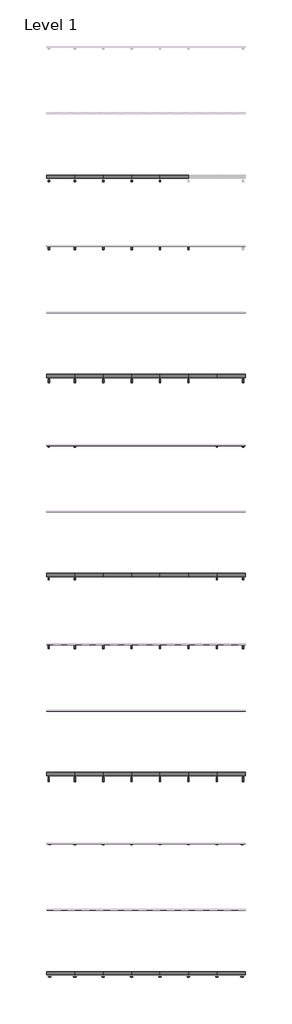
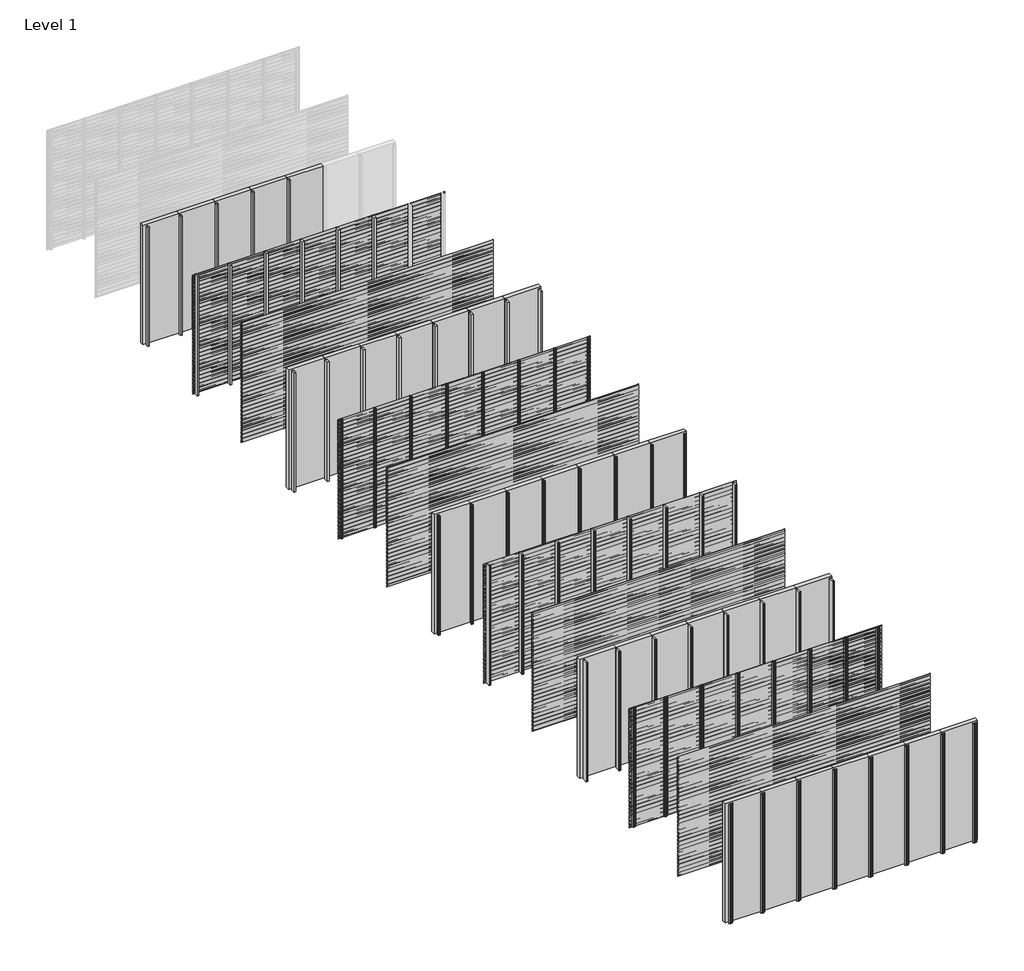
# One storey, part 1 of 96: 67 members, 65 plates.
"""IFC4 building model written with IfcOpenShell, lengths in millimetres."""

from ifc_helpers import new_model, si_unit, origin, origin_with_axes, place, context, project, spatial, polyline, outline, extrude, transform, mapped, element, save
from components import rectangular_mullion_6cf2c509, rectangular_mullion_8b77bd57, rectangular_mullion_2c867e25, rectangular_mullion_7803f5c4, rectangular_mullion_82152e2f, rectangular_mullion_9b796d85, rectangular_mullion_6132f1f1, rectangular_mullion_8f153c19, rectangular_mullion_5b30f3fd, rectangular_mullion_5e0e8e0a, rectangular_mullion_d2d38772, rectangular_mullion_efb80f74, rectangular_mullion_aaa1fb1b, rectangular_mullion_ea9d012c, empty_system_panel_empty_5c9cbeb2

model = new_model("IFC4")

# Units and contexts
model_context = context("Model", 3, world=origin())
ifc_project = project(units=[si_unit("LENGTHUNIT", "METRE", prefix="MILLI")], contexts=[model_context])

# Site, building, storey
site = spatial("IfcSite", under=ifc_project)
building = spatial("IfcBuilding", under=site)
storey = spatial("IfcBuildingStorey", under=building, Name="Level 1", Elevation=0.0)

# Members
placement = place(None, origin())
rectangular_mullion_shape = rectangular_mullion_6cf2c509(model_context)
element("IfcMember", 1, ObjectType="Rectangular Mullion : NLRS_21_CWM_drager SD.054_Storax", at=placement, inside=storey, context=model_context, shape_type="MappedRepresentation", body=[
    mapped(rectangular_mullion_shape, transform((3428.5714286, -34000.0, 0.0), x_axis=(-1.0, 0.0, 0.0), y_axis=(0.0, 1.0, 0.0), z_axis=(0.0, 0.0, -1.0))),
])
element("IfcMember", 2, ObjectType="Rectangular Mullion : NLRS_21_CWM_drager SD.054_Storax", at=placement, inside=storey, context=model_context, shape_type="MappedRepresentation", body=[
    mapped(rectangular_mullion_shape, transform((2571.4285714, -34000.0, 0.0), x_axis=(-1.0, 0.0, 0.0), y_axis=(0.0, 1.0, 0.0), z_axis=(0.0, 0.0, -1.0))),
])
element("IfcMember", 3, ObjectType="Rectangular Mullion : NLRS_21_CWM_drager SD.054_Storax", at=placement, inside=storey, context=model_context, shape_type="MappedRepresentation", body=[
    mapped(rectangular_mullion_shape, transform((1714.2857143, -34000.0, 0.0), x_axis=(-1.0, 0.0, 0.0), y_axis=(0.0, 1.0, 0.0), z_axis=(0.0, 0.0, -1.0))),
])
element("IfcMember", 4, ObjectType="Rectangular Mullion : NLRS_21_CWM_drager SD.054_Storax", at=placement, inside=storey, context=model_context, shape_type="MappedRepresentation", body=[
    mapped(rectangular_mullion_shape, transform((857.1428571, -34000.0, 0.0), x_axis=(-1.0, 0.0, 0.0), y_axis=(0.0, 1.0, 0.0), z_axis=(0.0, 0.0, -1.0))),
])
rectangular_mullion_2_shape = rectangular_mullion_8b77bd57(model_context)
element("IfcMember", 5, ObjectType="Rectangular Mullion : NLRS_21_CWM_drager SD.100_Storax", at=placement, inside=storey, context=model_context, shape_type="MappedRepresentation", body=[
    mapped(rectangular_mullion_2_shape, transform((4285.7142857, -36000.0, 0.0), x_axis=(-1.0, 0.0, 0.0), y_axis=(0.0, 1.0, 0.0), z_axis=(0.0, 0.0, -1.0))),
])
element("IfcMember", 6, ObjectType="Rectangular Mullion : NLRS_21_CWM_drager SD.100_Storax", at=placement, inside=storey, context=model_context, shape_type="MappedRepresentation", body=[
    mapped(rectangular_mullion_2_shape, transform((3428.5714286, -36000.0, 0.0), x_axis=(-1.0, 0.0, 0.0), y_axis=(0.0, 1.0, 0.0), z_axis=(0.0, 0.0, -1.0))),
])
element("IfcMember", 7, ObjectType="Rectangular Mullion : NLRS_21_CWM_drager SD.100_Storax", at=placement, inside=storey, context=model_context, shape_type="MappedRepresentation", body=[
    mapped(rectangular_mullion_2_shape, transform((2571.4285714, -36000.0, 0.0), x_axis=(-1.0, 0.0, 0.0), y_axis=(0.0, 1.0, 0.0), z_axis=(0.0, 0.0, -1.0))),
])
element("IfcMember", 8, ObjectType="Rectangular Mullion : NLRS_21_CWM_drager SD.100_Storax", at=placement, inside=storey, context=model_context, shape_type="MappedRepresentation", body=[
    mapped(rectangular_mullion_2_shape, transform((1714.2857143, -36000.0, 0.0), x_axis=(-1.0, 0.0, 0.0), y_axis=(0.0, 1.0, 0.0), z_axis=(0.0, 0.0, -1.0))),
])
element("IfcMember", 9, ObjectType="Rectangular Mullion : NLRS_21_CWM_drager SD.100_Storax", at=placement, inside=storey, context=model_context, shape_type="MappedRepresentation", body=[
    mapped(rectangular_mullion_2_shape, transform((857.1428571, -36000.0, 0.0), x_axis=(-1.0, 0.0, 0.0), y_axis=(0.0, 1.0, 0.0), z_axis=(0.0, 0.0, -1.0))),
])
element("IfcMember", 10, ObjectType="Rectangular Mullion : NLRS_21_CWM_drager SD.100_Storax", at=placement, inside=storey, context=model_context, shape_type="MappedRepresentation", body=[
    mapped(rectangular_mullion_2_shape, transform((5142.8571429, -40000.0, 0.0), x_axis=(-1.0, 0.0, 0.0), y_axis=(0.0, 1.0, 0.0), z_axis=(0.0, 0.0, -1.0))),
])
element("IfcMember", 11, ObjectType="Rectangular Mullion : NLRS_21_CWM_drager SD.100_Storax", at=placement, inside=storey, context=model_context, shape_type="MappedRepresentation", body=[
    mapped(rectangular_mullion_2_shape, transform((4285.7142857, -40000.0, 0.0), x_axis=(-1.0, 0.0, 0.0), y_axis=(0.0, 1.0, 0.0), z_axis=(0.0, 0.0, -1.0))),
])
element("IfcMember", 12, ObjectType="Rectangular Mullion : NLRS_21_CWM_drager SD.100_Storax", at=placement, inside=storey, context=model_context, shape_type="MappedRepresentation", body=[
    mapped(rectangular_mullion_2_shape, transform((3428.5714286, -40000.0, 0.0), x_axis=(-1.0, 0.0, 0.0), y_axis=(0.0, 1.0, 0.0), z_axis=(0.0, 0.0, -1.0))),
])
element("IfcMember", 13, ObjectType="Rectangular Mullion : NLRS_21_CWM_drager SD.100_Storax", at=placement, inside=storey, context=model_context, shape_type="MappedRepresentation", body=[
    mapped(rectangular_mullion_2_shape, transform((2571.4285714, -40000.0, 0.0), x_axis=(-1.0, 0.0, 0.0), y_axis=(0.0, 1.0, 0.0), z_axis=(0.0, 0.0, -1.0))),
])
element("IfcMember", 14, ObjectType="Rectangular Mullion : NLRS_21_CWM_drager SD.100_Storax", at=placement, inside=storey, context=model_context, shape_type="MappedRepresentation", body=[
    mapped(rectangular_mullion_2_shape, transform((1714.2857143, -40000.0, 0.0), x_axis=(-1.0, 0.0, 0.0), y_axis=(0.0, 1.0, 0.0), z_axis=(0.0, 0.0, -1.0))),
])
element("IfcMember", 15, ObjectType="Rectangular Mullion : NLRS_21_CWM_drager SD.100_Storax", at=placement, inside=storey, context=model_context, shape_type="MappedRepresentation", body=[
    mapped(rectangular_mullion_2_shape, transform((857.1428571, -40000.0, 0.0), x_axis=(-1.0, 0.0, 0.0), y_axis=(0.0, 1.0, 0.0), z_axis=(0.0, 0.0, -1.0))),
])
rectangular_mullion_3_shape = rectangular_mullion_2c867e25(model_context)
element("IfcMember", 16, ObjectType="Rectangular Mullion : NLRS_21_CWM_drager LD.0440_Storax", at=placement, inside=storey, context=model_context, shape_type="MappedRepresentation", body=[
    mapped(rectangular_mullion_3_shape, transform((5142.8571429, -42000.0, 0.0), x_axis=(-1.0, 0.0, 0.0), y_axis=(0.0, 1.0, 0.0), z_axis=(0.0, 0.0, -1.0))),
])
element("IfcMember", 17, ObjectType="Rectangular Mullion : NLRS_21_CWM_drager LD.0440_Storax", at=placement, inside=storey, context=model_context, shape_type="MappedRepresentation", body=[
    mapped(rectangular_mullion_3_shape, transform((4285.7142857, -42000.0, 0.0), x_axis=(-1.0, 0.0, 0.0), y_axis=(0.0, 1.0, 0.0), z_axis=(0.0, 0.0, -1.0))),
])
element("IfcMember", 18, ObjectType="Rectangular Mullion : NLRS_21_CWM_drager LD.0440_Storax", at=placement, inside=storey, context=model_context, shape_type="MappedRepresentation", body=[
    mapped(rectangular_mullion_3_shape, transform((3428.5714286, -42000.0, 0.0), x_axis=(-1.0, 0.0, 0.0), y_axis=(0.0, 1.0, 0.0), z_axis=(0.0, 0.0, -1.0))),
])
element("IfcMember", 19, ObjectType="Rectangular Mullion : NLRS_21_CWM_drager LD.0440_Storax", at=placement, inside=storey, context=model_context, shape_type="MappedRepresentation", body=[
    mapped(rectangular_mullion_3_shape, transform((2571.4285714, -42000.0, 0.0), x_axis=(-1.0, 0.0, 0.0), y_axis=(0.0, 1.0, 0.0), z_axis=(0.0, 0.0, -1.0))),
])
element("IfcMember", 20, ObjectType="Rectangular Mullion : NLRS_21_CWM_drager LD.0440_Storax", at=placement, inside=storey, context=model_context, shape_type="MappedRepresentation", body=[
    mapped(rectangular_mullion_3_shape, transform((1714.2857143, -42000.0, 0.0), x_axis=(-1.0, 0.0, 0.0), y_axis=(0.0, 1.0, 0.0), z_axis=(0.0, 0.0, -1.0))),
])
element("IfcMember", 21, ObjectType="Rectangular Mullion : NLRS_21_CWM_drager LD.0440_Storax", at=placement, inside=storey, context=model_context, shape_type="MappedRepresentation", body=[
    mapped(rectangular_mullion_3_shape, transform((857.1428571, -42000.0, 0.0), x_axis=(-1.0, 0.0, 0.0), y_axis=(0.0, 1.0, 0.0), z_axis=(0.0, 0.0, -1.0))),
])
element("IfcMember", 22, ObjectType="Rectangular Mullion : NLRS_21_CWM_drager LD.0440_Storax", at=placement, inside=storey, context=model_context, shape_type="MappedRepresentation", body=[
    mapped(rectangular_mullion_3_shape, transform((5142.8571429, -46000.0, 0.0), x_axis=(-1.0, 0.0, 0.0), y_axis=(0.0, 1.0, 0.0), z_axis=(0.0, 0.0, -1.0))),
])
element("IfcMember", 23, ObjectType="Rectangular Mullion : NLRS_21_CWM_drager LD.0440_Storax", at=placement, inside=storey, context=model_context, shape_type="MappedRepresentation", body=[
    mapped(rectangular_mullion_3_shape, transform((4285.7142857, -46000.0, 0.0), x_axis=(-1.0, 0.0, 0.0), y_axis=(0.0, 1.0, 0.0), z_axis=(0.0, 0.0, -1.0))),
])
element("IfcMember", 24, ObjectType="Rectangular Mullion : NLRS_21_CWM_drager LD.0440_Storax", at=placement, inside=storey, context=model_context, shape_type="MappedRepresentation", body=[
    mapped(rectangular_mullion_3_shape, transform((3428.5714286, -46000.0, 0.0), x_axis=(-1.0, 0.0, 0.0), y_axis=(0.0, 1.0, 0.0), z_axis=(0.0, 0.0, -1.0))),
])
element("IfcMember", 25, ObjectType="Rectangular Mullion : NLRS_21_CWM_drager LD.0440_Storax", at=placement, inside=storey, context=model_context, shape_type="MappedRepresentation", body=[
    mapped(rectangular_mullion_3_shape, transform((2571.4285714, -46000.0, 0.0), x_axis=(-1.0, 0.0, 0.0), y_axis=(0.0, 1.0, 0.0), z_axis=(0.0, 0.0, -1.0))),
])
element("IfcMember", 26, ObjectType="Rectangular Mullion : NLRS_21_CWM_drager LD.0440_Storax", at=placement, inside=storey, context=model_context, shape_type="MappedRepresentation", body=[
    mapped(rectangular_mullion_3_shape, transform((1714.2857143, -46000.0, 0.0), x_axis=(-1.0, 0.0, 0.0), y_axis=(0.0, 1.0, 0.0), z_axis=(0.0, 0.0, -1.0))),
])
element("IfcMember", 27, ObjectType="Rectangular Mullion : NLRS_21_CWM_drager LD.0440_Storax", at=placement, inside=storey, context=model_context, shape_type="MappedRepresentation", body=[
    mapped(rectangular_mullion_3_shape, transform((857.1428571, -46000.0, 0.0), x_axis=(-1.0, 0.0, 0.0), y_axis=(0.0, 1.0, 0.0), z_axis=(0.0, 0.0, -1.0))),
])
rectangular_mullion_4_shape = rectangular_mullion_7803f5c4(model_context)
element("IfcMember", 28, ObjectType="Rectangular Mullion : NLRS_21_CWM_drager LD.1250_Storax", at=placement, inside=storey, context=model_context, shape_type="MappedRepresentation", body=[
    mapped(rectangular_mullion_4_shape, transform((5142.8571429, -48000.0, 0.0), x_axis=(-1.0, 0.0, 0.0), y_axis=(0.0, 1.0, 0.0), z_axis=(0.0, 0.0, -1.0))),
])
element("IfcMember", 29, ObjectType="Rectangular Mullion : NLRS_21_CWM_drager LD.1250_Storax", at=placement, inside=storey, context=model_context, shape_type="MappedRepresentation", body=[
    mapped(rectangular_mullion_4_shape, transform((4285.7142857, -48000.0, 0.0), x_axis=(-1.0, 0.0, 0.0), y_axis=(0.0, 1.0, 0.0), z_axis=(0.0, 0.0, -1.0))),
])
element("IfcMember", 30, ObjectType="Rectangular Mullion : NLRS_21_CWM_drager LD.1250_Storax", at=placement, inside=storey, context=model_context, shape_type="MappedRepresentation", body=[
    mapped(rectangular_mullion_4_shape, transform((3428.5714286, -48000.0, 0.0), x_axis=(-1.0, 0.0, 0.0), y_axis=(0.0, 1.0, 0.0), z_axis=(0.0, 0.0, -1.0))),
])
element("IfcMember", 31, ObjectType="Rectangular Mullion : NLRS_21_CWM_drager LD.1250_Storax", at=placement, inside=storey, context=model_context, shape_type="MappedRepresentation", body=[
    mapped(rectangular_mullion_4_shape, transform((2571.4285714, -48000.0, 0.0), x_axis=(-1.0, 0.0, 0.0), y_axis=(0.0, 1.0, 0.0), z_axis=(0.0, 0.0, -1.0))),
])
element("IfcMember", 32, ObjectType="Rectangular Mullion : NLRS_21_CWM_drager LD.1250_Storax", at=placement, inside=storey, context=model_context, shape_type="MappedRepresentation", body=[
    mapped(rectangular_mullion_4_shape, transform((1714.2857143, -48000.0, 0.0), x_axis=(-1.0, 0.0, 0.0), y_axis=(0.0, 1.0, 0.0), z_axis=(0.0, 0.0, -1.0))),
])
element("IfcMember", 33, ObjectType="Rectangular Mullion : NLRS_21_CWM_drager LD.1250_Storax", at=placement, inside=storey, context=model_context, shape_type="MappedRepresentation", body=[
    mapped(rectangular_mullion_4_shape, transform((857.1428571, -48000.0, 0.0), x_axis=(-1.0, 0.0, 0.0), y_axis=(0.0, 1.0, 0.0), z_axis=(0.0, 0.0, -1.0))),
])
element("IfcMember", 34, ObjectType="Rectangular Mullion : NLRS_21_CWM_drager LD.1250_Storax", at=placement, inside=storey, context=model_context, shape_type="MappedRepresentation", body=[
    mapped(rectangular_mullion_4_shape, transform((5142.8571429, -52000.0, 0.0), x_axis=(-1.0, 0.0, 0.0), y_axis=(0.0, 1.0, 0.0), z_axis=(0.0, 0.0, -1.0))),
])
element("IfcMember", 35, ObjectType="Rectangular Mullion : NLRS_21_CWM_drager LD.1250_Storax", at=placement, inside=storey, context=model_context, shape_type="MappedRepresentation", body=[
    mapped(rectangular_mullion_4_shape, transform((4285.7142857, -52000.0, 0.0), x_axis=(-1.0, 0.0, 0.0), y_axis=(0.0, 1.0, 0.0), z_axis=(0.0, 0.0, -1.0))),
])
element("IfcMember", 36, ObjectType="Rectangular Mullion : NLRS_21_CWM_drager LD.1250_Storax", at=placement, inside=storey, context=model_context, shape_type="MappedRepresentation", body=[
    mapped(rectangular_mullion_4_shape, transform((3428.5714286, -52000.0, 0.0), x_axis=(-1.0, 0.0, 0.0), y_axis=(0.0, 1.0, 0.0), z_axis=(0.0, 0.0, -1.0))),
])
element("IfcMember", 37, ObjectType="Rectangular Mullion : NLRS_21_CWM_drager LD.1250_Storax", at=placement, inside=storey, context=model_context, shape_type="MappedRepresentation", body=[
    mapped(rectangular_mullion_4_shape, transform((2571.4285714, -52000.0, 0.0), x_axis=(-1.0, 0.0, 0.0), y_axis=(0.0, 1.0, 0.0), z_axis=(0.0, 0.0, -1.0))),
])
element("IfcMember", 38, ObjectType="Rectangular Mullion : NLRS_21_CWM_drager LD.1250_Storax", at=placement, inside=storey, context=model_context, shape_type="MappedRepresentation", body=[
    mapped(rectangular_mullion_4_shape, transform((1714.2857143, -52000.0, 0.0), x_axis=(-1.0, 0.0, 0.0), y_axis=(0.0, 1.0, 0.0), z_axis=(0.0, 0.0, -1.0))),
])
element("IfcMember", 39, ObjectType="Rectangular Mullion : NLRS_21_CWM_drager LD.1250_Storax", at=placement, inside=storey, context=model_context, shape_type="MappedRepresentation", body=[
    mapped(rectangular_mullion_4_shape, transform((857.1428571, -52000.0, 0.0), x_axis=(-1.0, 0.0, 0.0), y_axis=(0.0, 1.0, 0.0), z_axis=(0.0, 0.0, -1.0))),
])
rectangular_mullion_5_shape = rectangular_mullion_82152e2f(model_context)
element("IfcMember", 40, ObjectType="Rectangular Mullion : NLRS_21_CWM_drager LD.0240_Storax", at=placement, inside=storey, context=model_context, shape_type="MappedRepresentation", body=[
    mapped(rectangular_mullion_5_shape, transform((5142.8571429, -54000.0, 0.0), x_axis=(-1.0, 0.0, 0.0), y_axis=(0.0, 1.0, 0.0), z_axis=(0.0, 0.0, -1.0))),
])
element("IfcMember", 41, ObjectType="Rectangular Mullion : NLRS_21_CWM_drager LD.0240_Storax", at=placement, inside=storey, context=model_context, shape_type="MappedRepresentation", body=[
    mapped(rectangular_mullion_5_shape, transform((4285.7142857, -54000.0, 0.0), x_axis=(-1.0, 0.0, 0.0), y_axis=(0.0, 1.0, 0.0), z_axis=(0.0, 0.0, -1.0))),
])
element("IfcMember", 42, ObjectType="Rectangular Mullion : NLRS_21_CWM_drager LD.0240_Storax", at=placement, inside=storey, context=model_context, shape_type="MappedRepresentation", body=[
    mapped(rectangular_mullion_5_shape, transform((3428.5714286, -54000.0, 0.0), x_axis=(-1.0, 0.0, 0.0), y_axis=(0.0, 1.0, 0.0), z_axis=(0.0, 0.0, -1.0))),
])
element("IfcMember", 43, ObjectType="Rectangular Mullion : NLRS_21_CWM_drager LD.0240_Storax", at=placement, inside=storey, context=model_context, shape_type="MappedRepresentation", body=[
    mapped(rectangular_mullion_5_shape, transform((2571.4285714, -54000.0, 0.0), x_axis=(-1.0, 0.0, 0.0), y_axis=(0.0, 1.0, 0.0), z_axis=(0.0, 0.0, -1.0))),
])
element("IfcMember", 44, ObjectType="Rectangular Mullion : NLRS_21_CWM_drager LD.0240_Storax", at=placement, inside=storey, context=model_context, shape_type="MappedRepresentation", body=[
    mapped(rectangular_mullion_5_shape, transform((1714.2857143, -54000.0, 0.0), x_axis=(-1.0, 0.0, 0.0), y_axis=(0.0, 1.0, 0.0), z_axis=(0.0, 0.0, -1.0))),
])
element("IfcMember", 45, ObjectType="Rectangular Mullion : NLRS_21_CWM_drager LD.0240_Storax", at=placement, inside=storey, context=model_context, shape_type="MappedRepresentation", body=[
    mapped(rectangular_mullion_5_shape, transform((857.1428571, -54000.0, 0.0), x_axis=(-1.0, 0.0, 0.0), y_axis=(0.0, 1.0, 0.0), z_axis=(0.0, 0.0, -1.0))),
])
element("IfcMember", 46, ObjectType="Rectangular Mullion : NLRS_21_CWM_drager LD.0240_Storax", at=placement, inside=storey, context=model_context, shape_type="MappedRepresentation", body=[
    mapped(rectangular_mullion_5_shape, transform((5142.8571429, -58000.0, 0.0), x_axis=(-1.0, 0.0, 0.0), y_axis=(0.0, 1.0, 0.0), z_axis=(0.0, 0.0, -1.0))),
])
element("IfcMember", 47, ObjectType="Rectangular Mullion : NLRS_21_CWM_drager LD.0240_Storax", at=placement, inside=storey, context=model_context, shape_type="MappedRepresentation", body=[
    mapped(rectangular_mullion_5_shape, transform((4285.7142857, -58000.0, 0.0), x_axis=(-1.0, 0.0, 0.0), y_axis=(0.0, 1.0, 0.0), z_axis=(0.0, 0.0, -1.0))),
])
element("IfcMember", 48, ObjectType="Rectangular Mullion : NLRS_21_CWM_drager LD.0240_Storax", at=placement, inside=storey, context=model_context, shape_type="MappedRepresentation", body=[
    mapped(rectangular_mullion_5_shape, transform((3428.5714286, -58000.0, 0.0), x_axis=(-1.0, 0.0, 0.0), y_axis=(0.0, 1.0, 0.0), z_axis=(0.0, 0.0, -1.0))),
])
element("IfcMember", 49, ObjectType="Rectangular Mullion : NLRS_21_CWM_drager LD.0240_Storax", at=placement, inside=storey, context=model_context, shape_type="MappedRepresentation", body=[
    mapped(rectangular_mullion_5_shape, transform((2571.4285714, -58000.0, 0.0), x_axis=(-1.0, 0.0, 0.0), y_axis=(0.0, 1.0, 0.0), z_axis=(0.0, 0.0, -1.0))),
])
element("IfcMember", 50, ObjectType="Rectangular Mullion : NLRS_21_CWM_drager LD.0240_Storax", at=placement, inside=storey, context=model_context, shape_type="MappedRepresentation", body=[
    mapped(rectangular_mullion_5_shape, transform((1714.2857143, -58000.0, 0.0), x_axis=(-1.0, 0.0, 0.0), y_axis=(0.0, 1.0, 0.0), z_axis=(0.0, 0.0, -1.0))),
])
element("IfcMember", 51, ObjectType="Rectangular Mullion : NLRS_21_CWM_drager LD.0240_Storax", at=placement, inside=storey, context=model_context, shape_type="MappedRepresentation", body=[
    mapped(rectangular_mullion_5_shape, transform((857.1428571, -58000.0, 0.0), x_axis=(-1.0, 0.0, 0.0), y_axis=(0.0, 1.0, 0.0), z_axis=(0.0, 0.0, -1.0))),
])
rectangular_mullion_6_shape = rectangular_mullion_9b796d85(model_context)
element("IfcMember", 52, ObjectType="Rectangular Mullion : NLRS_21_CWM_drager SD.054 - links_Storax", at=placement, inside=storey, context=model_context, shape_type="MappedRepresentation", body=[
    mapped(rectangular_mullion_6_shape, transform((0.0, -34000.0, 0.0), x_axis=(-1.0, 0.0, 0.0), y_axis=(0.0, 1.0, 0.0), z_axis=(0.0, 0.0, -1.0))),
])
rectangular_mullion_7_shape = rectangular_mullion_6132f1f1(model_context)
element("IfcMember", 53, ObjectType="Rectangular Mullion : NLRS_21_CWM_drager SD.100 - links_Storax", at=placement, inside=storey, context=model_context, shape_type="MappedRepresentation", body=[
    mapped(rectangular_mullion_7_shape, transform((0.0, -36000.0, 0.0), x_axis=(-1.0, 0.0, 0.0), y_axis=(0.0, 1.0, 0.0), z_axis=(0.0, 0.0, -1.0))),
])
element("IfcMember", 54, ObjectType="Rectangular Mullion : NLRS_21_CWM_drager SD.100 - links_Storax", at=placement, inside=storey, context=model_context, shape_type="MappedRepresentation", body=[
    mapped(rectangular_mullion_7_shape, transform((0.0, -40000.0, 0.0), x_axis=(-1.0, 0.0, 0.0), y_axis=(0.0, 1.0, 0.0), z_axis=(0.0, 0.0, -1.0))),
])
rectangular_mullion_8_shape = rectangular_mullion_8f153c19(model_context)
element("IfcMember", 55, ObjectType="Rectangular Mullion : NLRS_21_CWM_drager SD.100 - rechts_Storax", at=placement, inside=storey, context=model_context, shape_type="MappedRepresentation", body=[
    mapped(rectangular_mullion_8_shape, transform((6000.0, -40000.0, 3000.0), x_axis=(1.0, 0.0, 0.0), y_axis=(0.0, 1.0, 0.0), z_axis=(0.0, 0.0, 1.0))),
])
rectangular_mullion_9_shape = rectangular_mullion_5b30f3fd(model_context)
element("IfcMember", 56, ObjectType="Rectangular Mullion : NLRS_21_CWM_drager LD.0440 - links_Storax", at=placement, inside=storey, context=model_context, shape_type="MappedRepresentation", body=[
    mapped(rectangular_mullion_9_shape, transform((0.0, -42000.0, 0.0), x_axis=(-1.0, 0.0, 0.0), y_axis=(0.0, 1.0, 0.0), z_axis=(0.0, 0.0, -1.0))),
])
element("IfcMember", 57, ObjectType="Rectangular Mullion : NLRS_21_CWM_drager LD.0440 - links_Storax", at=placement, inside=storey, context=model_context, shape_type="MappedRepresentation", body=[
    mapped(rectangular_mullion_9_shape, transform((0.0, -46000.0, 0.0), x_axis=(-1.0, 0.0, 0.0), y_axis=(0.0, 1.0, 0.0), z_axis=(0.0, 0.0, -1.0))),
])
rectangular_mullion_10_shape = rectangular_mullion_5e0e8e0a(model_context)
element("IfcMember", 58, ObjectType="Rectangular Mullion : NLRS_21_CWM_drager LD.0440 - rechts_Storax", at=placement, inside=storey, context=model_context, shape_type="MappedRepresentation", body=[
    mapped(rectangular_mullion_10_shape, transform((6000.0, -42000.0, 3000.0), x_axis=(1.0, 0.0, 0.0), y_axis=(0.0, 1.0, 0.0), z_axis=(0.0, 0.0, 1.0))),
])
element("IfcMember", 59, ObjectType="Rectangular Mullion : NLRS_21_CWM_drager LD.0440 - rechts_Storax", at=placement, inside=storey, context=model_context, shape_type="MappedRepresentation", body=[
    mapped(rectangular_mullion_10_shape, transform((6000.0, -46000.0, 3000.0), x_axis=(1.0, 0.0, 0.0), y_axis=(0.0, 1.0, 0.0), z_axis=(0.0, 0.0, 1.0))),
])
rectangular_mullion_11_shape = rectangular_mullion_d2d38772(model_context)
element("IfcMember", 60, ObjectType="Rectangular Mullion : NLRS_21_CWM_drager LD.1250 - links_Storax", at=placement, inside=storey, context=model_context, shape_type="MappedRepresentation", body=[
    mapped(rectangular_mullion_11_shape, transform((0.0, -48000.0, 0.0), x_axis=(-1.0, 0.0, 0.0), y_axis=(0.0, 1.0, 0.0), z_axis=(0.0, 0.0, -1.0))),
])
element("IfcMember", 61, ObjectType="Rectangular Mullion : NLRS_21_CWM_drager LD.1250 - links_Storax", at=placement, inside=storey, context=model_context, shape_type="MappedRepresentation", body=[
    mapped(rectangular_mullion_11_shape, transform((0.0, -52000.0, 0.0), x_axis=(-1.0, 0.0, 0.0), y_axis=(0.0, 1.0, 0.0), z_axis=(0.0, 0.0, -1.0))),
])
rectangular_mullion_12_shape = rectangular_mullion_efb80f74(model_context)
element("IfcMember", 62, ObjectType="Rectangular Mullion : NLRS_21_CWM_drager LD.1250 - rechts_Storax", at=placement, inside=storey, context=model_context, shape_type="MappedRepresentation", body=[
    mapped(rectangular_mullion_12_shape, transform((6000.0, -48000.0, 3000.0), x_axis=(1.0, 0.0, 0.0), y_axis=(0.0, 1.0, 0.0), z_axis=(0.0, 0.0, 1.0))),
])
element("IfcMember", 63, ObjectType="Rectangular Mullion : NLRS_21_CWM_drager LD.1250 - rechts_Storax", at=placement, inside=storey, context=model_context, shape_type="MappedRepresentation", body=[
    mapped(rectangular_mullion_12_shape, transform((6000.0, -52000.0, 3000.0), x_axis=(1.0, 0.0, 0.0), y_axis=(0.0, 1.0, 0.0), z_axis=(0.0, 0.0, 1.0))),
])
rectangular_mullion_13_shape = rectangular_mullion_aaa1fb1b(model_context)
element("IfcMember", 64, ObjectType="Rectangular Mullion : NLRS_21_CWM_drager LD.0240 - links_Storax", at=placement, inside=storey, context=model_context, shape_type="MappedRepresentation", body=[
    mapped(rectangular_mullion_13_shape, transform((0.0, -54000.0, 0.0), x_axis=(-1.0, 0.0, 0.0), y_axis=(0.0, 1.0, 0.0), z_axis=(0.0, 0.0, -1.0))),
])
element("IfcMember", 65, ObjectType="Rectangular Mullion : NLRS_21_CWM_drager LD.0240 - links_Storax", at=placement, inside=storey, context=model_context, shape_type="MappedRepresentation", body=[
    mapped(rectangular_mullion_13_shape, transform((0.0, -58000.0, 0.0), x_axis=(-1.0, 0.0, 0.0), y_axis=(0.0, 1.0, 0.0), z_axis=(0.0, 0.0, -1.0))),
])
rectangular_mullion_14_shape = rectangular_mullion_ea9d012c(model_context)
element("IfcMember", 66, ObjectType="Rectangular Mullion : NLRS_21_CWM_drager LD.0240 - rechts_Storax", at=placement, inside=storey, context=model_context, shape_type="MappedRepresentation", body=[
    mapped(rectangular_mullion_14_shape, transform((6000.0, -54000.0, 3000.0), x_axis=(1.0, 0.0, 0.0), y_axis=(0.0, 1.0, 0.0), z_axis=(0.0, 0.0, 1.0))),
])
element("IfcMember", 67, ObjectType="Rectangular Mullion : NLRS_21_CWM_drager LD.0240 - rechts_Storax", at=placement, inside=storey, context=model_context, shape_type="MappedRepresentation", body=[
    mapped(rectangular_mullion_14_shape, transform((6000.0, -58000.0, 3000.0), x_axis=(1.0, 0.0, 0.0), y_axis=(0.0, 1.0, 0.0), z_axis=(0.0, 0.0, 1.0))),
])

# Plates
element("IfcPlate", 68, ObjectType="NLRS_21_WA_lamellenwand Linius - L.033.08_Storax", at=placement, inside=storey, context=model_context, shape_type="SweptSolid", body=[
    extrude(outline(polyline([(0.0, -35999.0), (857.1428571, -35999.0), (857.1428571, -36001.0), (0.0, -36001.0), (0.0, -35999.0)])), origin_with_axes(), (0.0, 0.0, 1.0), 3000.0),
])
element("IfcPlate", 69, ObjectType="NLRS_21_WA_lamellenwand Linius - L.033.08_Storax", at=placement, inside=storey, context=model_context, shape_type="SweptSolid", body=[
    extrude(outline(polyline([(857.1428571, -35999.0), (1714.2857143, -35999.0), (1714.2857143, -36001.0), (857.1428571, -36001.0), (857.1428571, -35999.0)])), origin_with_axes(), (0.0, 0.0, 1.0), 3000.0),
])
element("IfcPlate", 70, ObjectType="NLRS_21_WA_lamellenwand Linius - L.033.08_Storax", at=placement, inside=storey, context=model_context, shape_type="SweptSolid", body=[
    extrude(outline(polyline([(1714.2857143, -35999.0), (2571.4285714, -35999.0), (2571.4285714, -36001.0), (1714.2857143, -36001.0), (1714.2857143, -35999.0)])), origin_with_axes(), (0.0, 0.0, 1.0), 3000.0),
])
element("IfcPlate", 71, ObjectType="NLRS_21_WA_lamellenwand Linius - L.033.08_Storax", at=placement, inside=storey, context=model_context, shape_type="SweptSolid", body=[
    extrude(outline(polyline([(2571.4285714, -35999.0), (3428.5714286, -35999.0), (3428.5714286, -36001.0), (2571.4285714, -36001.0), (2571.4285714, -35999.0)])), origin_with_axes(), (0.0, 0.0, 1.0), 3000.0),
])
element("IfcPlate", 72, ObjectType="NLRS_21_WA_lamellenwand Linius - L.033.08_Storax", at=placement, inside=storey, context=model_context, shape_type="SweptSolid", body=[
    extrude(outline(polyline([(3428.5714286, -35999.0), (4285.7142857, -35999.0), (4285.7142857, -36001.0), (3428.5714286, -36001.0), (3428.5714286, -35999.0)])), origin_with_axes(), (0.0, 0.0, 1.0), 3000.0),
])
element("IfcPlate", 73, ObjectType="NLRS_21_WA_lamellenwand Linius - L.033.08_Storax", at=placement, inside=storey, context=model_context, shape_type="SweptSolid", body=[
    extrude(outline(polyline([(4285.7142857, -35999.0), (5142.8571429, -35999.0), (5142.8571429, -36001.0), (4285.7142857, -36001.0), (4285.7142857, -35999.0)])), origin_with_axes(), (0.0, 0.0, 1.0), 3000.0),
])
element("IfcPlate", 74, ObjectType="NLRS_21_WA_lamellenwand Linius - L.033.08_Storax", at=placement, inside=storey, context=model_context, shape_type="SweptSolid", body=[
    extrude(outline(polyline([(5142.8571429, -35999.0), (6000.0, -35999.0), (6000.0, -36001.0), (5142.8571429, -36001.0), (5142.8571429, -35999.0)])), origin_with_axes(), (0.0, 0.0, 1.0), 3000.0),
])
element("IfcPlate", 75, ObjectType="NLRS_21_WA_lamellenwand Linius - L.033.08_Storax", at=placement, inside=storey, context=model_context, shape_type="SweptSolid", body=[
    extrude(outline(polyline([(0.0, -37999.0), (6000.0, -37999.0), (6000.0, -38001.0), (0.0, -38001.0), (0.0, -37999.0)])), origin_with_axes(), (0.0, 0.0, 1.0), 3000.0),
])
element("IfcPlate", 76, ObjectType="NLRS_21_WA_lamellenwand Linius - L.033.08_Storax", at=placement, inside=storey, context=model_context, shape_type="SweptSolid", body=[
    extrude(outline(polyline([(0.0, -41999.0), (857.1428571, -41999.0), (857.1428571, -42001.0), (0.0, -42001.0), (0.0, -41999.0)])), origin_with_axes(), (0.0, 0.0, 1.0), 3000.0),
])
element("IfcPlate", 77, ObjectType="NLRS_21_WA_lamellenwand Linius - L.033.08_Storax", at=placement, inside=storey, context=model_context, shape_type="SweptSolid", body=[
    extrude(outline(polyline([(857.1428571, -41999.0), (1714.2857143, -41999.0), (1714.2857143, -42001.0), (857.1428571, -42001.0), (857.1428571, -41999.0)])), origin_with_axes(), (0.0, 0.0, 1.0), 3000.0),
])
element("IfcPlate", 78, ObjectType="NLRS_21_WA_lamellenwand Linius - L.033.08_Storax", at=placement, inside=storey, context=model_context, shape_type="SweptSolid", body=[
    extrude(outline(polyline([(1714.2857143, -41999.0), (2571.4285714, -41999.0), (2571.4285714, -42001.0), (1714.2857143, -42001.0), (1714.2857143, -41999.0)])), origin_with_axes(), (0.0, 0.0, 1.0), 3000.0),
])
element("IfcPlate", 79, ObjectType="NLRS_21_WA_lamellenwand Linius - L.033.08_Storax", at=placement, inside=storey, context=model_context, shape_type="SweptSolid", body=[
    extrude(outline(polyline([(2571.4285714, -41999.0), (3428.5714286, -41999.0), (3428.5714286, -42001.0), (2571.4285714, -42001.0), (2571.4285714, -41999.0)])), origin_with_axes(), (0.0, 0.0, 1.0), 3000.0),
])
element("IfcPlate", 80, ObjectType="NLRS_21_WA_lamellenwand Linius - L.033.08_Storax", at=placement, inside=storey, context=model_context, shape_type="SweptSolid", body=[
    extrude(outline(polyline([(3428.5714286, -41999.0), (4285.7142857, -41999.0), (4285.7142857, -42001.0), (3428.5714286, -42001.0), (3428.5714286, -41999.0)])), origin_with_axes(), (0.0, 0.0, 1.0), 3000.0),
])
element("IfcPlate", 81, ObjectType="NLRS_21_WA_lamellenwand Linius - L.033.08_Storax", at=placement, inside=storey, context=model_context, shape_type="SweptSolid", body=[
    extrude(outline(polyline([(4285.7142857, -41999.0), (5142.8571429, -41999.0), (5142.8571429, -42001.0), (4285.7142857, -42001.0), (4285.7142857, -41999.0)])), origin_with_axes(), (0.0, 0.0, 1.0), 3000.0),
])
element("IfcPlate", 82, ObjectType="NLRS_21_WA_lamellenwand Linius - L.033.08_Storax", at=placement, inside=storey, context=model_context, shape_type="SweptSolid", body=[
    extrude(outline(polyline([(5142.8571429, -41999.0), (6000.0, -41999.0), (6000.0, -42001.0), (5142.8571429, -42001.0), (5142.8571429, -41999.0)])), origin_with_axes(), (0.0, 0.0, 1.0), 3000.0),
])
element("IfcPlate", 83, ObjectType="NLRS_21_WA_lamellenwand Linius - L.033.08_Storax", at=placement, inside=storey, context=model_context, shape_type="SweptSolid", body=[
    extrude(outline(polyline([(0.0, -43999.0), (6000.0, -43999.0), (6000.0, -44001.0), (0.0, -44001.0), (0.0, -43999.0)])), origin_with_axes(), (0.0, 0.0, 1.0), 3000.0),
])
element("IfcPlate", 84, ObjectType="NLRS_21_WA_lamellenwand Linius - L.033.08_Storax", at=placement, inside=storey, context=model_context, shape_type="SweptSolid", body=[
    extrude(outline(polyline([(0.0, -47999.0), (857.1428571, -47999.0), (857.1428571, -48001.0), (0.0, -48001.0), (0.0, -47999.0)])), origin_with_axes(), (0.0, 0.0, 1.0), 3000.0),
])
element("IfcPlate", 85, ObjectType="NLRS_21_WA_lamellenwand Linius - L.033.08_Storax", at=placement, inside=storey, context=model_context, shape_type="SweptSolid", body=[
    extrude(outline(polyline([(857.1428571, -47999.0), (1714.2857143, -47999.0), (1714.2857143, -48001.0), (857.1428571, -48001.0), (857.1428571, -47999.0)])), origin_with_axes(), (0.0, 0.0, 1.0), 3000.0),
])
element("IfcPlate", 86, ObjectType="NLRS_21_WA_lamellenwand Linius - L.033.08_Storax", at=placement, inside=storey, context=model_context, shape_type="SweptSolid", body=[
    extrude(outline(polyline([(1714.2857143, -47999.0), (2571.4285714, -47999.0), (2571.4285714, -48001.0), (1714.2857143, -48001.0), (1714.2857143, -47999.0)])), origin_with_axes(), (0.0, 0.0, 1.0), 3000.0),
])
element("IfcPlate", 87, ObjectType="NLRS_21_WA_lamellenwand Linius - L.033.08_Storax", at=placement, inside=storey, context=model_context, shape_type="SweptSolid", body=[
    extrude(outline(polyline([(2571.4285714, -47999.0), (3428.5714286, -47999.0), (3428.5714286, -48001.0), (2571.4285714, -48001.0), (2571.4285714, -47999.0)])), origin_with_axes(), (0.0, 0.0, 1.0), 3000.0),
])
element("IfcPlate", 88, ObjectType="NLRS_21_WA_lamellenwand Linius - L.033.08_Storax", at=placement, inside=storey, context=model_context, shape_type="SweptSolid", body=[
    extrude(outline(polyline([(3428.5714286, -47999.0), (4285.7142857, -47999.0), (4285.7142857, -48001.0), (3428.5714286, -48001.0), (3428.5714286, -47999.0)])), origin_with_axes(), (0.0, 0.0, 1.0), 3000.0),
])
element("IfcPlate", 89, ObjectType="NLRS_21_WA_lamellenwand Linius - L.033.08_Storax", at=placement, inside=storey, context=model_context, shape_type="SweptSolid", body=[
    extrude(outline(polyline([(4285.7142857, -47999.0), (5142.8571429, -47999.0), (5142.8571429, -48001.0), (4285.7142857, -48001.0), (4285.7142857, -47999.0)])), origin_with_axes(), (0.0, 0.0, 1.0), 3000.0),
])
element("IfcPlate", 90, ObjectType="NLRS_21_WA_lamellenwand Linius - L.033.08_Storax", at=placement, inside=storey, context=model_context, shape_type="SweptSolid", body=[
    extrude(outline(polyline([(5142.8571429, -47999.0), (6000.0, -47999.0), (6000.0, -48001.0), (5142.8571429, -48001.0), (5142.8571429, -47999.0)])), origin_with_axes(), (0.0, 0.0, 1.0), 3000.0),
])
element("IfcPlate", 91, ObjectType="NLRS_21_WA_lamellenwand Linius - L.033.08_Storax", at=placement, inside=storey, context=model_context, shape_type="SweptSolid", body=[
    extrude(outline(polyline([(0.0, -49999.0), (6000.0, -49999.0), (6000.0, -50001.0), (0.0, -50001.0), (0.0, -49999.0)])), origin_with_axes(), (0.0, 0.0, 1.0), 3000.0),
])
element("IfcPlate", 92, ObjectType="NLRS_21_WA_lamellenwand Linius - L.033.08_Storax", at=placement, inside=storey, context=model_context, shape_type="SweptSolid", body=[
    extrude(outline(polyline([(0.0, -53999.0), (857.1428571, -53999.0), (857.1428571, -54001.0), (0.0, -54001.0), (0.0, -53999.0)])), origin_with_axes(), (0.0, 0.0, 1.0), 3000.0),
])
element("IfcPlate", 93, ObjectType="NLRS_21_WA_lamellenwand Linius - L.033.08_Storax", at=placement, inside=storey, context=model_context, shape_type="SweptSolid", body=[
    extrude(outline(polyline([(857.1428571, -53999.0), (1714.2857143, -53999.0), (1714.2857143, -54001.0), (857.1428571, -54001.0), (857.1428571, -53999.0)])), origin_with_axes(), (0.0, 0.0, 1.0), 3000.0),
])
element("IfcPlate", 94, ObjectType="NLRS_21_WA_lamellenwand Linius - L.033.08_Storax", at=placement, inside=storey, context=model_context, shape_type="SweptSolid", body=[
    extrude(outline(polyline([(1714.2857143, -53999.0), (2571.4285714, -53999.0), (2571.4285714, -54001.0), (1714.2857143, -54001.0), (1714.2857143, -53999.0)])), origin_with_axes(), (0.0, 0.0, 1.0), 3000.0),
])
element("IfcPlate", 95, ObjectType="NLRS_21_WA_lamellenwand Linius - L.033.08_Storax", at=placement, inside=storey, context=model_context, shape_type="SweptSolid", body=[
    extrude(outline(polyline([(2571.4285714, -53999.0), (3428.5714286, -53999.0), (3428.5714286, -54001.0), (2571.4285714, -54001.0), (2571.4285714, -53999.0)])), origin_with_axes(), (0.0, 0.0, 1.0), 3000.0),
])
element("IfcPlate", 96, ObjectType="NLRS_21_WA_lamellenwand Linius - L.033.08_Storax", at=placement, inside=storey, context=model_context, shape_type="SweptSolid", body=[
    extrude(outline(polyline([(3428.5714286, -53999.0), (4285.7142857, -53999.0), (4285.7142857, -54001.0), (3428.5714286, -54001.0), (3428.5714286, -53999.0)])), origin_with_axes(), (0.0, 0.0, 1.0), 3000.0),
])
element("IfcPlate", 97, ObjectType="NLRS_21_WA_lamellenwand Linius - L.033.08_Storax", at=placement, inside=storey, context=model_context, shape_type="SweptSolid", body=[
    extrude(outline(polyline([(4285.7142857, -53999.0), (5142.8571429, -53999.0), (5142.8571429, -54001.0), (4285.7142857, -54001.0), (4285.7142857, -53999.0)])), origin_with_axes(), (0.0, 0.0, 1.0), 3000.0),
])
element("IfcPlate", 98, ObjectType="NLRS_21_WA_lamellenwand Linius - L.033.08_Storax", at=placement, inside=storey, context=model_context, shape_type="SweptSolid", body=[
    extrude(outline(polyline([(5142.8571429, -53999.0), (6000.0, -53999.0), (6000.0, -54001.0), (5142.8571429, -54001.0), (5142.8571429, -53999.0)])), origin_with_axes(), (0.0, 0.0, 1.0), 3000.0),
])
element("IfcPlate", 99, ObjectType="NLRS_21_WA_lamellenwand Linius - L.033.08_Storax", at=placement, inside=storey, context=model_context, shape_type="SweptSolid", body=[
    extrude(outline(polyline([(0.0, -55999.0), (6000.0, -55999.0), (6000.0, -56001.0), (0.0, -56001.0), (0.0, -55999.0)])), origin_with_axes(), (0.0, 0.0, 1.0), 3000.0),
])
empty_system_panel_empty_shape = empty_system_panel_empty_5c9cbeb2(model_context)
element("IfcPlate", 100, ObjectType="Empty System Panel : Empty", at=placement, inside=storey, context=model_context, shape_type="MappedRepresentation", body=[
    mapped(empty_system_panel_empty_shape, transform((5571.4285714, -40000.0, 0.0), x_axis=(-1.0, 0.0, 0.0), y_axis=(0.0, -1.0, 0.0), z_axis=(0.0, 0.0, 1.0))),
])
element("IfcPlate", 101, ObjectType="Empty System Panel : Empty", at=placement, inside=storey, context=model_context, shape_type="MappedRepresentation", body=[
    mapped(empty_system_panel_empty_shape, transform((5571.4285714, -46000.0, 0.0), x_axis=(-1.0, 0.0, 0.0), y_axis=(0.0, -1.0, 0.0), z_axis=(0.0, 0.0, 1.0))),
])
element("IfcPlate", 102, ObjectType="Empty System Panel : Empty", at=placement, inside=storey, context=model_context, shape_type="MappedRepresentation", body=[
    mapped(empty_system_panel_empty_shape, transform((5571.4285714, -52000.0, 0.0), x_axis=(-1.0, 0.0, 0.0), y_axis=(0.0, -1.0, 0.0), z_axis=(0.0, 0.0, 1.0))),
])
element("IfcPlate", 103, ObjectType="Empty System Panel : Empty", at=placement, inside=storey, context=model_context, shape_type="MappedRepresentation", body=[
    mapped(empty_system_panel_empty_shape, transform((5571.4285714, -58000.0, 0.0), x_axis=(-1.0, 0.0, 0.0), y_axis=(0.0, -1.0, 0.0), z_axis=(0.0, 0.0, 1.0))),
])
element("IfcPlate", 104, ObjectType="Empty System Panel : Empty", at=placement, inside=storey, context=model_context, shape_type="MappedRepresentation", body=[
    mapped(empty_system_panel_empty_shape, transform((3857.1428571, -34000.0, 0.0), x_axis=(-1.0, 0.0, 0.0), y_axis=(0.0, -1.0, 0.0), z_axis=(0.0, 0.0, 1.0))),
])
element("IfcPlate", 105, ObjectType="Empty System Panel : Empty", at=placement, inside=storey, context=model_context, shape_type="MappedRepresentation", body=[
    mapped(empty_system_panel_empty_shape, transform((3000.0, -34000.0, 0.0), x_axis=(-1.0, 0.0, 0.0), y_axis=(0.0, -1.0, 0.0), z_axis=(0.0, 0.0, 1.0))),
])
element("IfcPlate", 106, ObjectType="Empty System Panel : Empty", at=placement, inside=storey, context=model_context, shape_type="MappedRepresentation", body=[
    mapped(empty_system_panel_empty_shape, transform((2142.8571429, -34000.0, 0.0), x_axis=(-1.0, 0.0, 0.0), y_axis=(0.0, -1.0, 0.0), z_axis=(0.0, 0.0, 1.0))),
])
element("IfcPlate", 107, ObjectType="Empty System Panel : Empty", at=placement, inside=storey, context=model_context, shape_type="MappedRepresentation", body=[
    mapped(empty_system_panel_empty_shape, transform((1285.7142857, -34000.0, 0.0), x_axis=(-1.0, 0.0, 0.0), y_axis=(0.0, -1.0, 0.0), z_axis=(0.0, 0.0, 1.0))),
])
element("IfcPlate", 108, ObjectType="Empty System Panel : Empty", at=placement, inside=storey, context=model_context, shape_type="MappedRepresentation", body=[
    mapped(empty_system_panel_empty_shape, transform((428.5714286, -34000.0, 0.0), x_axis=(-1.0, 0.0, 0.0), y_axis=(0.0, -1.0, 0.0), z_axis=(0.0, 0.0, 1.0))),
])
element("IfcPlate", 109, ObjectType="Empty System Panel : Empty", at=placement, inside=storey, context=model_context, shape_type="MappedRepresentation", body=[
    mapped(empty_system_panel_empty_shape, transform((4714.2857143, -40000.0, 0.0), x_axis=(-1.0, 0.0, 0.0), y_axis=(0.0, -1.0, 0.0), z_axis=(0.0, 0.0, 1.0))),
])
element("IfcPlate", 110, ObjectType="Empty System Panel : Empty", at=placement, inside=storey, context=model_context, shape_type="MappedRepresentation", body=[
    mapped(empty_system_panel_empty_shape, transform((3857.1428571, -40000.0, 0.0), x_axis=(-1.0, 0.0, 0.0), y_axis=(0.0, -1.0, 0.0), z_axis=(0.0, 0.0, 1.0))),
])
element("IfcPlate", 111, ObjectType="Empty System Panel : Empty", at=placement, inside=storey, context=model_context, shape_type="MappedRepresentation", body=[
    mapped(empty_system_panel_empty_shape, transform((3000.0, -40000.0, 0.0), x_axis=(-1.0, 0.0, 0.0), y_axis=(0.0, -1.0, 0.0), z_axis=(0.0, 0.0, 1.0))),
])
element("IfcPlate", 112, ObjectType="Empty System Panel : Empty", at=placement, inside=storey, context=model_context, shape_type="MappedRepresentation", body=[
    mapped(empty_system_panel_empty_shape, transform((2142.8571429, -40000.0, 0.0), x_axis=(-1.0, 0.0, 0.0), y_axis=(0.0, -1.0, 0.0), z_axis=(0.0, 0.0, 1.0))),
])
element("IfcPlate", 113, ObjectType="Empty System Panel : Empty", at=placement, inside=storey, context=model_context, shape_type="MappedRepresentation", body=[
    mapped(empty_system_panel_empty_shape, transform((1285.7142857, -40000.0, 0.0), x_axis=(-1.0, 0.0, 0.0), y_axis=(0.0, -1.0, 0.0), z_axis=(0.0, 0.0, 1.0))),
])
element("IfcPlate", 114, ObjectType="Empty System Panel : Empty", at=placement, inside=storey, context=model_context, shape_type="MappedRepresentation", body=[
    mapped(empty_system_panel_empty_shape, transform((428.5714286, -40000.0, 0.0), x_axis=(-1.0, 0.0, 0.0), y_axis=(0.0, -1.0, 0.0), z_axis=(0.0, 0.0, 1.0))),
])
element("IfcPlate", 115, ObjectType="Empty System Panel : Empty", at=placement, inside=storey, context=model_context, shape_type="MappedRepresentation", body=[
    mapped(empty_system_panel_empty_shape, transform((4714.2857143, -46000.0, 0.0), x_axis=(-1.0, 0.0, 0.0), y_axis=(0.0, -1.0, 0.0), z_axis=(0.0, 0.0, 1.0))),
])
element("IfcPlate", 116, ObjectType="Empty System Panel : Empty", at=placement, inside=storey, context=model_context, shape_type="MappedRepresentation", body=[
    mapped(empty_system_panel_empty_shape, transform((3857.1428571, -46000.0, 0.0), x_axis=(-1.0, 0.0, 0.0), y_axis=(0.0, -1.0, 0.0), z_axis=(0.0, 0.0, 1.0))),
])
element("IfcPlate", 117, ObjectType="Empty System Panel : Empty", at=placement, inside=storey, context=model_context, shape_type="MappedRepresentation", body=[
    mapped(empty_system_panel_empty_shape, transform((3000.0, -46000.0, 0.0), x_axis=(-1.0, 0.0, 0.0), y_axis=(0.0, -1.0, 0.0), z_axis=(0.0, 0.0, 1.0))),
])
element("IfcPlate", 118, ObjectType="Empty System Panel : Empty", at=placement, inside=storey, context=model_context, shape_type="MappedRepresentation", body=[
    mapped(empty_system_panel_empty_shape, transform((2142.8571429, -46000.0, 0.0), x_axis=(-1.0, 0.0, 0.0), y_axis=(0.0, -1.0, 0.0), z_axis=(0.0, 0.0, 1.0))),
])
element("IfcPlate", 119, ObjectType="Empty System Panel : Empty", at=placement, inside=storey, context=model_context, shape_type="MappedRepresentation", body=[
    mapped(empty_system_panel_empty_shape, transform((1285.7142857, -46000.0, 0.0), x_axis=(-1.0, 0.0, 0.0), y_axis=(0.0, -1.0, 0.0), z_axis=(0.0, 0.0, 1.0))),
])
element("IfcPlate", 120, ObjectType="Empty System Panel : Empty", at=placement, inside=storey, context=model_context, shape_type="MappedRepresentation", body=[
    mapped(empty_system_panel_empty_shape, transform((428.5714286, -46000.0, 0.0), x_axis=(-1.0, 0.0, 0.0), y_axis=(0.0, -1.0, 0.0), z_axis=(0.0, 0.0, 1.0))),
])
element("IfcPlate", 121, ObjectType="Empty System Panel : Empty", at=placement, inside=storey, context=model_context, shape_type="MappedRepresentation", body=[
    mapped(empty_system_panel_empty_shape, transform((4714.2857143, -52000.0, 0.0), x_axis=(-1.0, 0.0, 0.0), y_axis=(0.0, -1.0, 0.0), z_axis=(0.0, 0.0, 1.0))),
])
element("IfcPlate", 122, ObjectType="Empty System Panel : Empty", at=placement, inside=storey, context=model_context, shape_type="MappedRepresentation", body=[
    mapped(empty_system_panel_empty_shape, transform((3857.1428571, -52000.0, 0.0), x_axis=(-1.0, 0.0, 0.0), y_axis=(0.0, -1.0, 0.0), z_axis=(0.0, 0.0, 1.0))),
])
element("IfcPlate", 123, ObjectType="Empty System Panel : Empty", at=placement, inside=storey, context=model_context, shape_type="MappedRepresentation", body=[
    mapped(empty_system_panel_empty_shape, transform((3000.0, -52000.0, 0.0), x_axis=(-1.0, 0.0, 0.0), y_axis=(0.0, -1.0, 0.0), z_axis=(0.0, 0.0, 1.0))),
])
element("IfcPlate", 124, ObjectType="Empty System Panel : Empty", at=placement, inside=storey, context=model_context, shape_type="MappedRepresentation", body=[
    mapped(empty_system_panel_empty_shape, transform((2142.8571429, -52000.0, 0.0), x_axis=(-1.0, 0.0, 0.0), y_axis=(0.0, -1.0, 0.0), z_axis=(0.0, 0.0, 1.0))),
])
element("IfcPlate", 125, ObjectType="Empty System Panel : Empty", at=placement, inside=storey, context=model_context, shape_type="MappedRepresentation", body=[
    mapped(empty_system_panel_empty_shape, transform((1285.7142857, -52000.0, 0.0), x_axis=(-1.0, 0.0, 0.0), y_axis=(0.0, -1.0, 0.0), z_axis=(0.0, 0.0, 1.0))),
])
element("IfcPlate", 126, ObjectType="Empty System Panel : Empty", at=placement, inside=storey, context=model_context, shape_type="MappedRepresentation", body=[
    mapped(empty_system_panel_empty_shape, transform((428.5714286, -52000.0, 0.0), x_axis=(-1.0, 0.0, 0.0), y_axis=(0.0, -1.0, 0.0), z_axis=(0.0, 0.0, 1.0))),
])
element("IfcPlate", 127, ObjectType="Empty System Panel : Empty", at=placement, inside=storey, context=model_context, shape_type="MappedRepresentation", body=[
    mapped(empty_system_panel_empty_shape, transform((4714.2857143, -58000.0, 0.0), x_axis=(-1.0, 0.0, 0.0), y_axis=(0.0, -1.0, 0.0), z_axis=(0.0, 0.0, 1.0))),
])
element("IfcPlate", 128, ObjectType="Empty System Panel : Empty", at=placement, inside=storey, context=model_context, shape_type="MappedRepresentation", body=[
    mapped(empty_system_panel_empty_shape, transform((3857.1428571, -58000.0, 0.0), x_axis=(-1.0, 0.0, 0.0), y_axis=(0.0, -1.0, 0.0), z_axis=(0.0, 0.0, 1.0))),
])
element("IfcPlate", 129, ObjectType="Empty System Panel : Empty", at=placement, inside=storey, context=model_context, shape_type="MappedRepresentation", body=[
    mapped(empty_system_panel_empty_shape, transform((3000.0, -58000.0, 0.0), x_axis=(-1.0, 0.0, 0.0), y_axis=(0.0, -1.0, 0.0), z_axis=(0.0, 0.0, 1.0))),
])
element("IfcPlate", 130, ObjectType="Empty System Panel : Empty", at=placement, inside=storey, context=model_context, shape_type="MappedRepresentation", body=[
    mapped(empty_system_panel_empty_shape, transform((2142.8571429, -58000.0, 0.0), x_axis=(-1.0, 0.0, 0.0), y_axis=(0.0, -1.0, 0.0), z_axis=(0.0, 0.0, 1.0))),
])
element("IfcPlate", 131, ObjectType="Empty System Panel : Empty", at=placement, inside=storey, context=model_context, shape_type="MappedRepresentation", body=[
    mapped(empty_system_panel_empty_shape, transform((1285.7142857, -58000.0, 0.0), x_axis=(-1.0, 0.0, 0.0), y_axis=(0.0, -1.0, 0.0), z_axis=(0.0, 0.0, 1.0))),
])
element("IfcPlate", 132, ObjectType="Empty System Panel : Empty", at=placement, inside=storey, context=model_context, shape_type="MappedRepresentation", body=[
    mapped(empty_system_panel_empty_shape, transform((428.5714286, -58000.0, 0.0), x_axis=(-1.0, 0.0, 0.0), y_axis=(0.0, -1.0, 0.0), z_axis=(0.0, 0.0, 1.0))),
])

save(model, "model.ifc")
